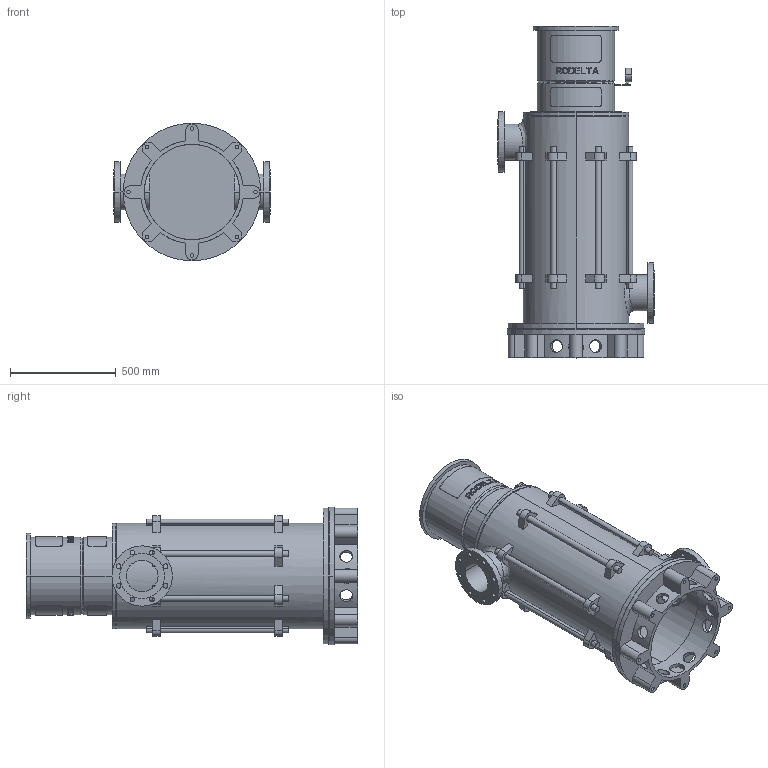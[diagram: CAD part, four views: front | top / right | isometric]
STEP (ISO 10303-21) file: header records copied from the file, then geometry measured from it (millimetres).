
FILE_DESCRIPTION((''),'2;1');
FILE_NAME('LS6_4TR_0GR_PN16_TOT_30KW','2025-10-23T14:56:12',('Lyritlocal'),(''),'CREO PARAMETRIC BY PTC INC, 2022014','CREO PARAMETRIC BY PTC INC, 2022014','');
FILE_SCHEMA(('CONFIG_CONTROL_DESIGN'));
Length unit declared in the file: millimetre
Products named in the file (1): LS6_4TR_0GR_PN16_TOT_30KW
Bounding box: 740 x 1567 x 650 mm (x, y, z)
Volume: 48716026.3 mm3; surface area: 6690009.6 mm2
Topology: 3 solids, 11 shells, 744 faces, 1951 edges, 1294 vertices
Faces by surface type: plane 438, cylinder 286, cone 12, bspline 8
Entity records: 25125 total; most frequent: CARTESIAN_POINT 6881, ORIENTED_EDGE 3870, DIRECTION 3585, EDGE_CURVE 1951, AXIS2_PLACEMENT_3D 1353, VERTEX_POINT 1294, EDGE_LOOP 909, VECTOR 879
